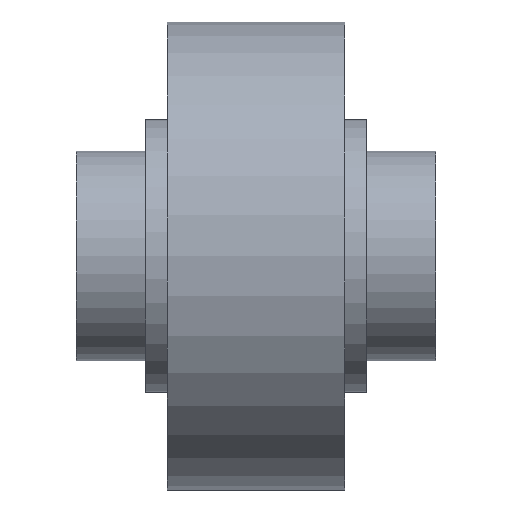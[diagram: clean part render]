
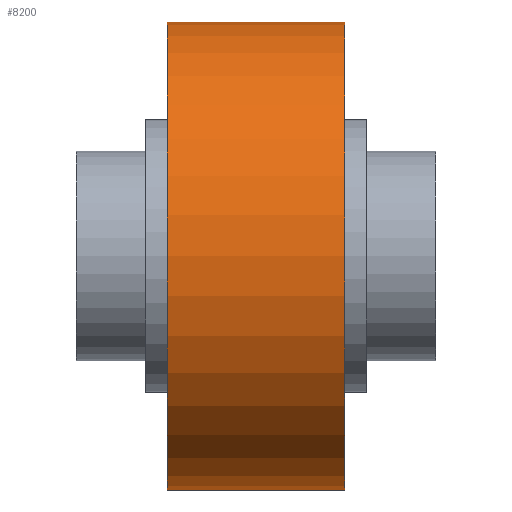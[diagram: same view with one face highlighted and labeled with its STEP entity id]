
A CAD part, top view. The second image highlights one B-rep face of the part: STEP entity #8200.
In plain terms, the highlighted cylindrical face has radius 125 mm (diameter 250 mm), a partial arc.
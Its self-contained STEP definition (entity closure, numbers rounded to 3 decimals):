
#7952=CARTESIAN_POINT('',(47.5,0.,0.));
#7953=DIRECTION('',(1.,0.,0.));
#7954=DIRECTION('',(0.,1.,0.));
#7955=AXIS2_PLACEMENT_3D('',#7952,#7953,#7954);
#7957=DIRECTION('',(-1.,0.,0.));
#7958=VECTOR('',#7957,95.);
#7959=CARTESIAN_POINT('',(47.5,125.,0.));
#7960=LINE('',#7959,#7958);
#7961=DIRECTION('',(-1.,0.,0.));
#7962=VECTOR('',#7961,95.);
#7963=CARTESIAN_POINT('',(47.5,-125.,0.));
#7964=LINE('',#7963,#7962);
#7975=CARTESIAN_POINT('',(-47.5,0.,0.));
#7976=DIRECTION('',(1.,0.,0.));
#7977=DIRECTION('',(0.,1.,0.));
#7978=AXIS2_PLACEMENT_3D('',#7975,#7976,#7977);
#8032=CARTESIAN_POINT('',(47.5,125.,0.));
#8033=CARTESIAN_POINT('',(-47.5,125.,0.));
#8034=VERTEX_POINT('',#8032);
#8035=VERTEX_POINT('',#8033);
#8040=CARTESIAN_POINT('',(47.5,-125.,0.));
#8041=CARTESIAN_POINT('',(-47.5,-125.,0.));
#8042=VERTEX_POINT('',#8040);
#8043=VERTEX_POINT('',#8041);
#8186=CARTESIAN_POINT('',(-52.25,0.,0.));
#8187=DIRECTION('',(1.,0.,0.));
#8188=DIRECTION('',(0.,-1.,0.));
#8189=AXIS2_PLACEMENT_3D('',#8186,#8187,#8188);
#8190=CYLINDRICAL_SURFACE('',#8189,125.);
#8192=ORIENTED_EDGE('',*,*,#8191,.F.);
#8193=ORIENTED_EDGE('',*,*,#8175,.T.);
#8195=ORIENTED_EDGE('',*,*,#8194,.T.);
#8197=ORIENTED_EDGE('',*,*,#8196,.F.);
#8198=EDGE_LOOP('',(#8192,#8193,#8195,#8197));
#8199=FACE_OUTER_BOUND('',#8198,.F.);
#8200=ADVANCED_FACE('',(#8199),#8190,.T.);
#7956=CIRCLE('',#7955,125.);
#7979=CIRCLE('',#7978,125.);
#8175=EDGE_CURVE('',#8034,#8042,#7956,.T.);
#8191=EDGE_CURVE('',#8034,#8035,#7960,.T.);
#8194=EDGE_CURVE('',#8042,#8043,#7964,.T.);
#8196=EDGE_CURVE('',#8035,#8043,#7979,.T.);
